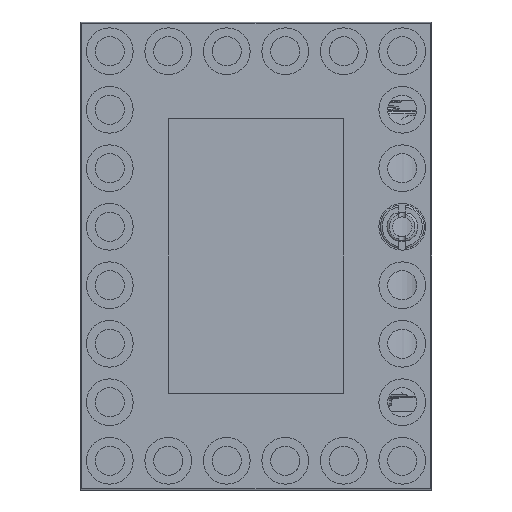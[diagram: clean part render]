
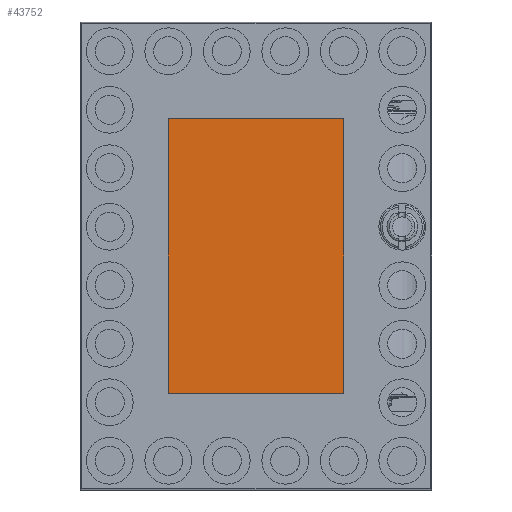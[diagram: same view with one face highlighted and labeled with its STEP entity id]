
A CAD part, front view. The second image highlights one B-rep face of the part: STEP entity #43752.
In plain terms, the highlighted planar face has unit normal (0, -1, 0).
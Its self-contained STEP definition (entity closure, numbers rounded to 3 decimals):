
#36077=DIRECTION('',(0.,0.,-1.));
#36078=VECTOR('',#36077,47.);
#36079=CARTESIAN_POINT('',(-105.,0.5,23.5));
#36080=LINE('',#36079,#36078);
#36084=DIRECTION('',(-1.,0.,0.));
#36085=VECTOR('',#36084,30.);
#36086=CARTESIAN_POINT('',(-75.,0.5,23.5));
#36087=LINE('',#36086,#36085);
#36091=DIRECTION('',(0.,0.,1.));
#36092=VECTOR('',#36091,47.);
#36093=CARTESIAN_POINT('',(-75.,0.5,-23.5));
#36094=LINE('',#36093,#36092);
#36098=DIRECTION('',(1.,0.,0.));
#36099=VECTOR('',#36098,30.);
#36100=CARTESIAN_POINT('',(-105.,0.5,-23.5));
#36101=LINE('',#36100,#36099);
#36217=CARTESIAN_POINT('',(-75.,0.5,-23.5));
#36218=VERTEX_POINT('',#36217);
#36219=CARTESIAN_POINT('',(-105.,0.5,-23.5));
#36220=VERTEX_POINT('',#36219);
#36221=CARTESIAN_POINT('',(-105.,0.5,23.5));
#36222=VERTEX_POINT('',#36221);
#36223=CARTESIAN_POINT('',(-75.,0.5,23.5));
#36224=VERTEX_POINT('',#36223);
#43741=CARTESIAN_POINT('',(-90.,0.5,0.));
#43742=DIRECTION('',(0.,1.,0.));
#43743=DIRECTION('',(0.,0.,1.));
#43744=AXIS2_PLACEMENT_3D('',#43741,#43742,#43743);
#43745=PLANE('',#43744);
#43746=ORIENTED_EDGE('',*,*,#43708,.F.);
#43747=ORIENTED_EDGE('',*,*,#43722,.F.);
#43748=ORIENTED_EDGE('',*,*,#43735,.F.);
#43749=ORIENTED_EDGE('',*,*,#43693,.F.);
#43750=EDGE_LOOP('',(#43746,#43747,#43748,#43749));
#43751=FACE_OUTER_BOUND('',#43750,.F.);
#43693=EDGE_CURVE('',#36220,#36218,#36101,.T.);
#43708=EDGE_CURVE('',#36222,#36220,#36080,.T.);
#43722=EDGE_CURVE('',#36224,#36222,#36087,.T.);
#43735=EDGE_CURVE('',#36218,#36224,#36094,.T.);
#43752=ADVANCED_FACE('',(#43751),#43745,.F.);
